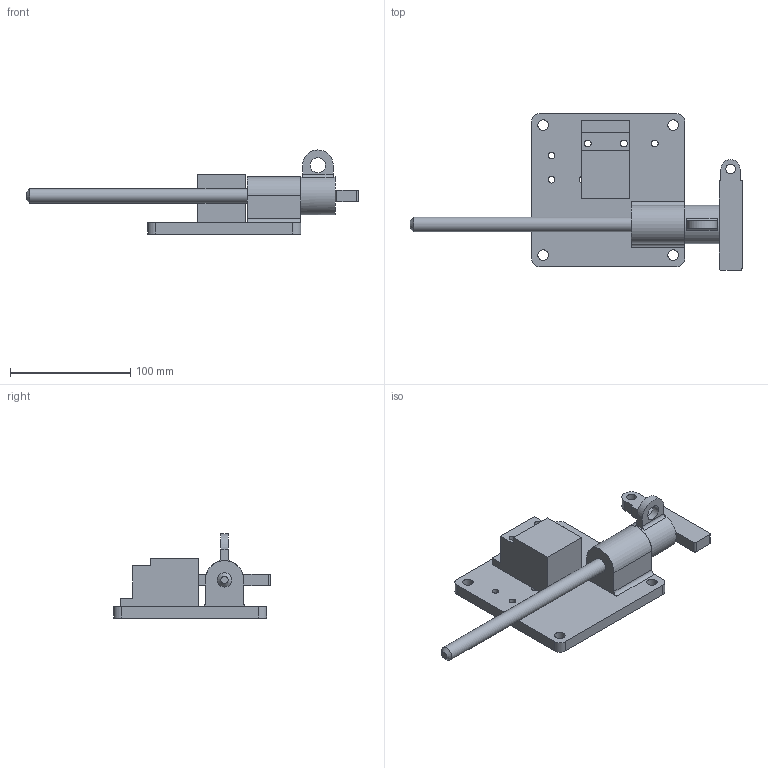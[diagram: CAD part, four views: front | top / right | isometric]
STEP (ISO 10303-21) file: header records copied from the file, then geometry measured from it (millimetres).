
FILE_DESCRIPTION(/* description */ (''),/* implementation_level */ '2;1');
FILE_NAME(/* name */ 'C:\Users\rcarver\Desktop\Tru-LOK pin\Ford-FCA\With Switch\SP12Y225TY00201.stp',/* time_stamp */ '2016-06-21T11:09:36-04:00',/* author */ ('rcarver'),/* organization */ (''),/* preprocessor_version */ 'ST-DEVELOPER v16.5',/* originating_system */ 'Autodesk Inventor 2017',/* authorisation */ '');
FILE_SCHEMA (('AUTOMOTIVE_DESIGN { 1 0 10303 214 3 1 1 }'));
Length unit declared in the file: millimetre
Products named in the file (1): SP12Y225TY00201
Bounding box: 275.62 x 130.18 x 69.85 mm (x, y, z)
Volume: 345345.7 mm3; surface area: 74302.2 mm2
Topology: 3 solids, 3 shells, 69 faces, 193 edges, 132 vertices
Faces by surface type: plane 37, cylinder 31, cone 1
Full cylindrical faces by diameter (mm): 5.588 x2, 5.59 x6, 7.94 x1, 8.74 x4, 12 x1, 12.7 x1, 31.75 x1
Entity records: 2196 total; most frequent: DIRECTION 368, CARTESIAN_POINT 346, ORIENTED_EDGE 320, EDGE_CURVE 160, AXIS2_PLACEMENT_3D 138, EDGE_LOOP 116, VERTEX_POINT 116, LINE 92
